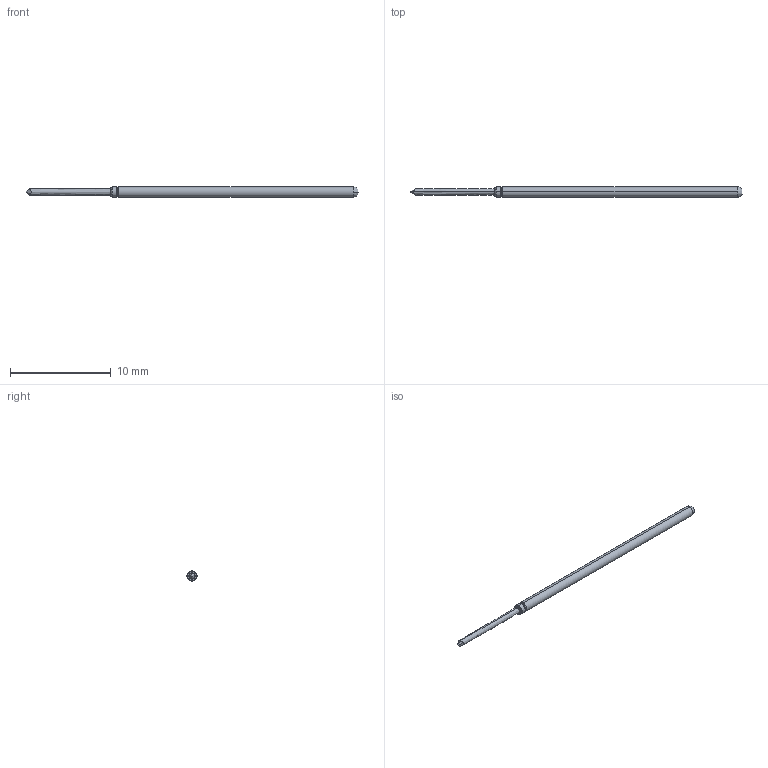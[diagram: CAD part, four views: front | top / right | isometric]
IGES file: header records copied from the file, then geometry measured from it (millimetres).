
Start section: SolidWorks IGES file using analytic representation for surfaces
Global section: file name: Z:\probe solid model mockups\Solidworks models\Parts\LFRE-1I8.IGS; native system: SolidWorks 2016; preprocessor: SolidWorks 2016; author: mlee; date: 180927.163350; units: inch
Bounding box: 33.02 x 1.02 x 1.02 mm (x, y, z)
Surface area: 95 mm2 (no closed solid volume)
Topology: 0 solids, 0 shells, 24 faces, 170 edges, 170 vertices
Faces by surface type: bspline 12, revolution 12
